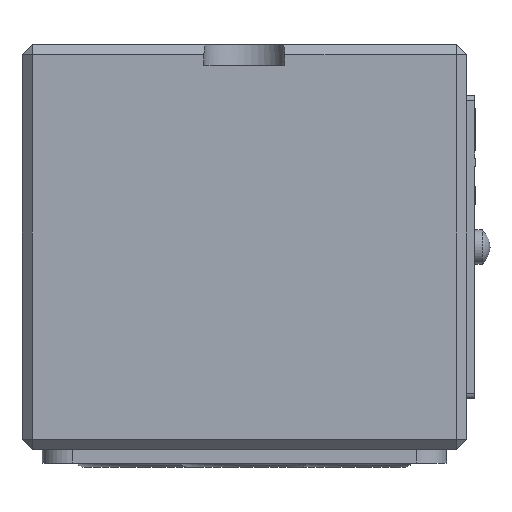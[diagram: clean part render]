
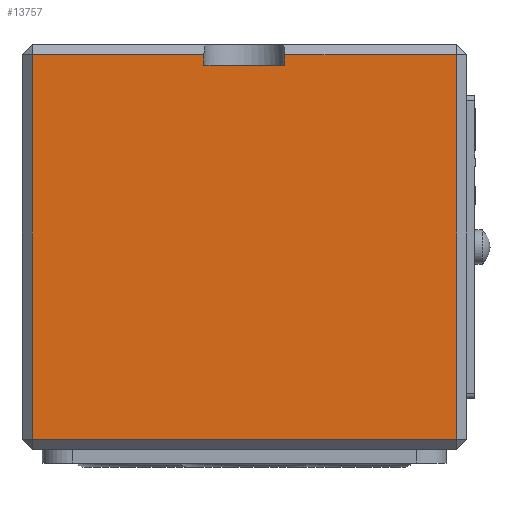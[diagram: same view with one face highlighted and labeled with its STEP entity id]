
A CAD part, left-side view. The second image highlights one B-rep face of the part: STEP entity #13757.
In plain terms, the highlighted planar face has unit normal (-1, 0, 0).
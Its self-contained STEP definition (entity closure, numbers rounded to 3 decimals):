
#3705=LINE('',#40225,#6467);
#3706=LINE('',#40228,#6468);
#3707=LINE('',#40230,#6469);
#3708=LINE('',#40232,#6470);
#3709=LINE('',#40234,#6471);
#3710=LINE('',#40236,#6472);
#3711=LINE('',#40238,#6473);
#3712=LINE('',#40240,#6474);
#6467=VECTOR('',#33544,1.);
#6468=VECTOR('',#33545,1.);
#6469=VECTOR('',#33546,1.);
#6470=VECTOR('',#33547,1.);
#6471=VECTOR('',#33548,1.);
#6472=VECTOR('',#33549,1.);
#6473=VECTOR('',#33550,1.);
#6474=VECTOR('',#33551,1.);
#13757=ADVANCED_FACE('',(#15702),#14703,.T.);
#14703=PLANE('',#28745);
#15702=FACE_OUTER_BOUND('',#16831,.T.);
#16831=EDGE_LOOP('',(#22609,#22610,#22611,#22612,#22613,#22614,#22615,#22616));
#22609=ORIENTED_EDGE('',*,*,#27589,.F.);
#22610=ORIENTED_EDGE('',*,*,#27590,.T.);
#22611=ORIENTED_EDGE('',*,*,#27591,.T.);
#22612=ORIENTED_EDGE('',*,*,#27592,.T.);
#22613=ORIENTED_EDGE('',*,*,#27593,.T.);
#22614=ORIENTED_EDGE('',*,*,#27594,.T.);
#22615=ORIENTED_EDGE('',*,*,#27595,.F.);
#22616=ORIENTED_EDGE('',*,*,#27596,.F.);
#24686=VERTEX_POINT('',#40226);
#24687=VERTEX_POINT('',#40227);
#24688=VERTEX_POINT('',#40229);
#24689=VERTEX_POINT('',#40231);
#24690=VERTEX_POINT('',#40233);
#24691=VERTEX_POINT('',#40235);
#24692=VERTEX_POINT('',#40237);
#24693=VERTEX_POINT('',#40239);
#27589=EDGE_CURVE('',#24686,#24687,#3705,.T.);
#27590=EDGE_CURVE('',#24686,#24688,#3706,.T.);
#27591=EDGE_CURVE('',#24688,#24689,#3707,.T.);
#27592=EDGE_CURVE('',#24689,#24690,#3708,.T.);
#27593=EDGE_CURVE('',#24690,#24691,#3709,.T.);
#27594=EDGE_CURVE('',#24691,#24692,#3710,.T.);
#27595=EDGE_CURVE('',#24693,#24692,#3711,.T.);
#27596=EDGE_CURVE('',#24687,#24693,#3712,.T.);
#28745=AXIS2_PLACEMENT_3D('',#40241,#33552,#33553);
#33544=DIRECTION('',(0.,0.,-1.));
#33545=DIRECTION('',(0.,1.,0.));
#33546=DIRECTION('',(0.,0.,-1.));
#33547=DIRECTION('',(0.,-1.,0.));
#33548=DIRECTION('',(0.,0.,1.));
#33549=DIRECTION('',(0.,1.,0.));
#33550=DIRECTION('',(0.,0.,1.));
#33551=DIRECTION('',(0.,-1.,0.));
#33552=DIRECTION('',(-1.,0.,0.));
#33553=DIRECTION('',(0.,0.,-1.));
#40225=CARTESIAN_POINT('',(-31.777,-5.937,104.44));
#40226=CARTESIAN_POINT('',(-31.777,-5.937,103.44));
#40227=CARTESIAN_POINT('',(-31.777,-5.937,102.44));
#40228=CARTESIAN_POINT('',(-31.777,12.063,103.44));
#40229=CARTESIAN_POINT('',(-31.777,11.063,103.44));
#40230=CARTESIAN_POINT('',(-31.777,11.063,64.44));
#40231=CARTESIAN_POINT('',(-31.777,11.063,65.44));
#40232=CARTESIAN_POINT('',(-31.777,-31.937,65.44));
#40233=CARTESIAN_POINT('',(-31.777,-30.937,65.44));
#40234=CARTESIAN_POINT('',(-31.777,-30.937,64.44));
#40235=CARTESIAN_POINT('',(-31.777,-30.937,103.44));
#40236=CARTESIAN_POINT('',(-31.777,12.063,103.44));
#40237=CARTESIAN_POINT('',(-31.777,-13.937,103.44));
#40238=CARTESIAN_POINT('',(-31.777,-13.937,104.44));
#40239=CARTESIAN_POINT('',(-31.777,-13.937,102.44));
#40240=CARTESIAN_POINT('',(-31.777,12.063,102.44));
#40241=CARTESIAN_POINT('',(-31.777,12.063,64.44));
